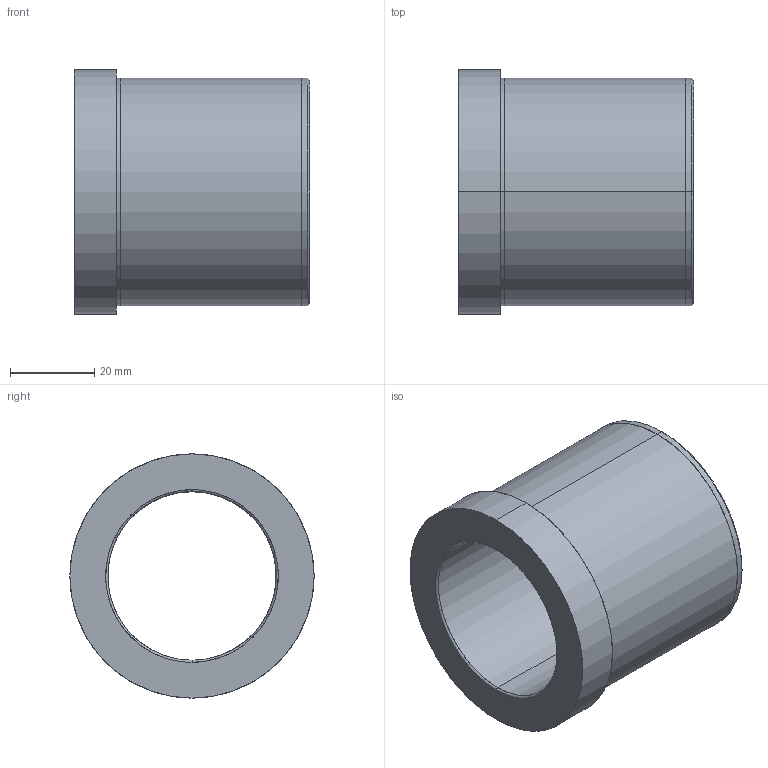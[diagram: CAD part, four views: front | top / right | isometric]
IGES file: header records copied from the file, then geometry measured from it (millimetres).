
Start section: SolidWorks IGES file using analytic representation for surfaces
Global section: file name: C:\Documents and Settings\kalite-mail\Desktop\IGS\D20\D20 - 40x56.IGS; native system: SolidWorks 2008; preprocessor: SolidWorks 2008; author: kalite-mail; date: 080617.121110; units: millimetre
Bounding box: 56 x 58 x 58 mm (x, y, z)
Surface area: 19336.3 mm2 (no closed solid volume)
Topology: 0 solids, 0 shells, 21 faces, 704 edges, 704 vertices
Faces by surface type: revolution 12, bspline 9
